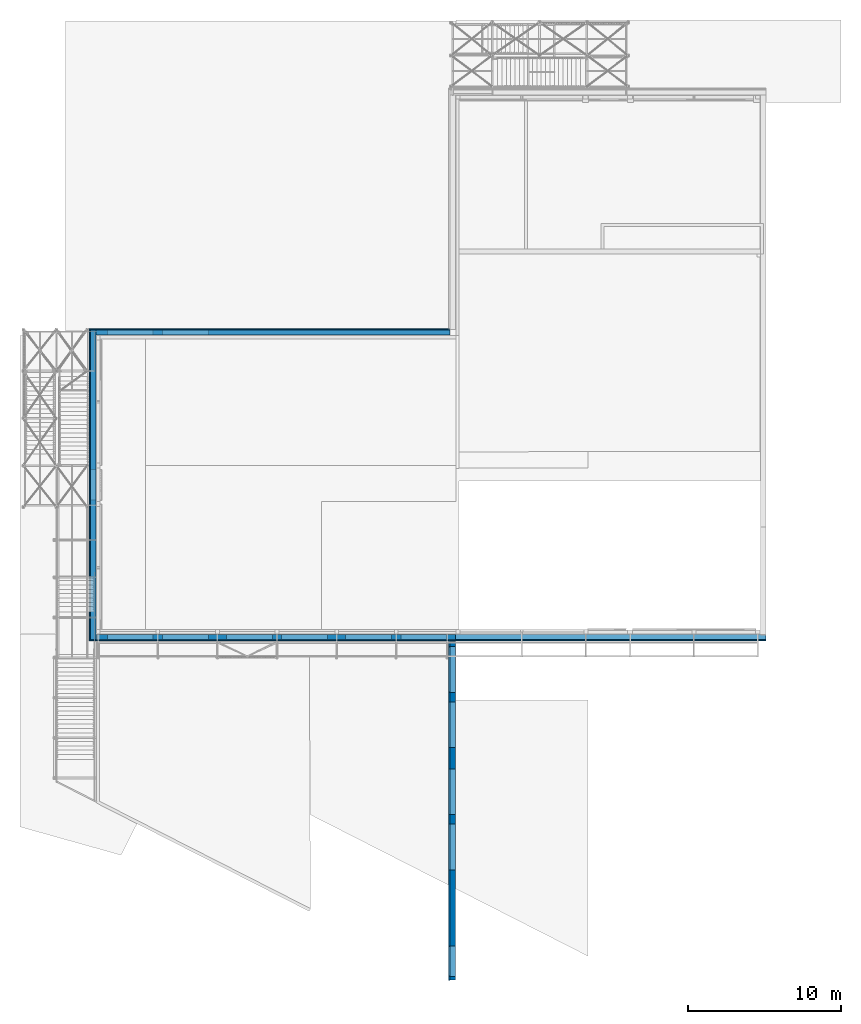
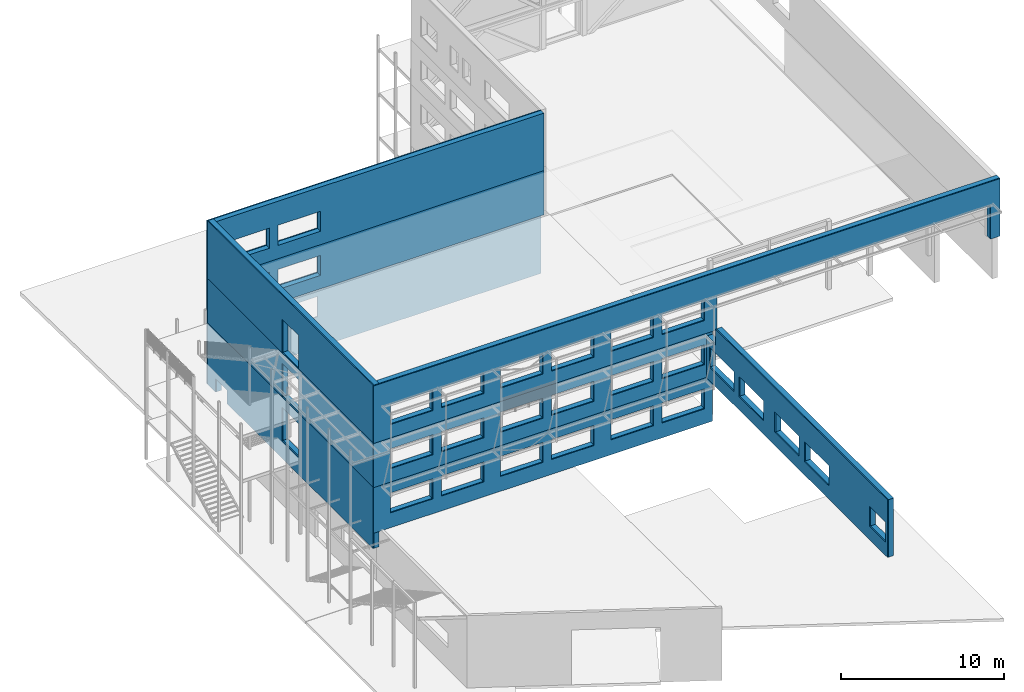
# One storey, part 65 of 78: 19 walls, 19 elements without a shape of their own.
"""IFC2X3 building model written with IfcOpenShell, lengths in millimetres."""

from ifc_helpers import new_model, si_unit, frame, frame_2d, origin_with_axes, place, context, subcontext, project, spatial, polyline, rectangle, outline, extrude, boolean, material, type_object, element, aggregate, save


model = new_model("IFC2X3")

# Units and contexts
model_context = context("Model", 3, precision=1e-05, world=origin_with_axes())
body_context = subcontext(model_context, "Body", "Model", "MODEL_VIEW")
ifc_project = project(units=[si_unit("LENGTHUNIT", "METRE", prefix="MILLI"), si_unit("AREAUNIT", "SQUARE_METRE"), si_unit("VOLUMEUNIT", "CUBIC_METRE"), si_unit("MASSUNIT", "GRAM", prefix="KILO"), si_unit("TIMEUNIT", "SECOND"), si_unit("PLANEANGLEUNIT", "RADIAN"), si_unit("SOLIDANGLEUNIT", "STERADIAN"), si_unit("THERMODYNAMICTEMPERATUREUNIT", "DEGREE_CELSIUS"), si_unit("LUMINOUSINTENSITYUNIT", "LUMEN")], contexts=[model_context])

# Site, building, storey
site_placement = place(None, origin_with_axes())
site = spatial("IfcSite", under=ifc_project, at=site_placement, Name="Site", CompositionType="ELEMENT")
building_placement = place(site_placement, origin_with_axes())
building = spatial("IfcBuilding", under=site, at=building_placement, Name="Undefined", CompositionType="ELEMENT")
storey_placement = place(building_placement, origin_with_axes())
storey = spatial("IfcBuildingStorey", under=building, at=storey_placement, Name="Undefined", CompositionType="ELEMENT", Elevation=0.0)

# Assembly, wall
assembly_1_placement = place(storey_placement, origin_with_axes())
assembly_1 = element("IfcElementAssembly", 1, at=assembly_1_placement, inside=storey, Name="PANNEAU", AssemblyPlace="NOTDEFINED", PredefinedType="RIGID_FRAME")
ifc_material_1 = material(Name="STEEL/S235JR")
wall_type_1 = type_object("IfcWallType", Name="4300*75", PredefinedType="NOTDEFINED")
wall_1_placement = place(assembly_1_placement, frame((-7476.43307529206, 12845.5002906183, 160000.039529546), z_axis=(0.0, 0.0, 1.0), x_axis=(-1.0, 0.0, 0.0)))
wall_1 = element("IfcWall", 2, at=wall_1_placement, type_object=wall_type_1, material=ifc_material_1, Name="PANNEAU", ObjectType="4300*75", context=body_context, shape_type="CSG", body=[
    boolean("DIFFERENCE", boolean("DIFFERENCE", extrude(rectangle(XDim=23594.9999009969, YDim=75.0, at=frame_2d((0.0, 11797.4999504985), x_axis=(0.0, -1.0))), frame((0.0, 0.0, 0.0), z_axis=(0.0, 0.0, 1.0), x_axis=(0.0, -1.0, 0.0)), (0.0, 0.0, 1.0), 4300.0), extrude(outline(polyline([(0.0, 0.0), (1500.0, -3.63797880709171e-12), (1500.0, 3000.0), (-0.00095367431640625, 3000.0), (0.0, 0.0)])), frame((18807.1117567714, 324.999999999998, 1000.000639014), z_axis=(0.0, -1.0, 0.0), x_axis=(0.0, 0.0, 1.0)), (0.0, 0.0, 1.0), 365.0)), extrude(outline(polyline([(0.0, 0.0), (1500.00095367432, 0.0), (1500.00095367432, 3000.00000000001), (0.0, 3000.00000000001), (0.0, 0.0)])), frame((22412.1112990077, 324.999999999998, 999.999624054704), z_axis=(0.0, -1.0, 0.0), x_axis=(0.0, 0.0, 1.0)), (0.0, 0.0, 1.0), 365.0)),
])
aggregate(assembly_1, [wall_1])

assembly_2_placement = place(storey_placement, origin_with_axes())
assembly_2 = element("IfcElementAssembly", 3, at=assembly_2_placement, inside=storey, Name="PANNEAU", AssemblyPlace="NOTDEFINED", PredefinedType="RIGID_FRAME")
wall_2_placement = place(assembly_2_placement, frame((-7513.93366298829, -7488.00116886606, 156700.039343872), z_axis=(0.0, 0.0, 1.0), x_axis=(0.0, -1.0, 0.0)))
wall_2 = element("IfcWall", 4, at=wall_2_placement, type_object=wall_type_1, material=ifc_material_1, Name="PANNEAU", ObjectType="4300*75", context=body_context, shape_type="CSG", body=[
    boolean("DIFFERENCE", boolean("DIFFERENCE", boolean("DIFFERENCE", boolean("DIFFERENCE", boolean("DIFFERENCE", boolean("DIFFERENCE", extrude(rectangle(XDim=22264.4138336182, YDim=75.0, at=frame_2d((0.0, 11132.2069168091), x_axis=(0.0, -1.0))), frame((0.0, 0.0, 0.0), z_axis=(0.0, 0.0, 1.0), x_axis=(0.0, -1.0, 0.0)), (0.0, 0.0, 1.0), 4300.0), extrude(outline(polyline([(0.0, 0.0), (1199.99980927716, 2.58833097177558e-08), (1199.99853912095, 1200.00000002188), (-0.00132173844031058, 1199.99868694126), (0.0, 0.0)])), frame((2.09183781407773e-11, 324.999999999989, 4300.0), z_axis=(0.0, -1.0, 0.0), x_axis=(-1.10100000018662e-06, 0.0, -0.999999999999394)), (0.0, 0.0, 1.0), 365.0)), extrude(outline(polyline([(0.0, 0.0), (1979.99954223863, 2.16823536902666e-08), (1979.99954223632, 1500.0), (0.0, 1500.0), (0.0, 0.0)])), frame((20046.999020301, 325.0, 1000.00009165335), z_axis=(0.0, -1.0, 0.0), x_axis=(1.0, 0.0, 0.0)), (0.0, 0.0, 1.0), 365.0)), extrude(outline(polyline([(0.0, 0.0), (1500.0, -3.63797880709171e-12), (1500.0, 3000.0), (0.0, 3000.00000000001), (0.0, 0.0)])), frame((15059.9995085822, 325.0, 1000.00030609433), z_axis=(0.0, -1.0, 0.0), x_axis=(0.0, 0.0, 1.0)), (0.0, 0.0, 1.0), 365.0)), extrude(outline(polyline([(0.0, 0.0), (3000.0, 0.0), (3000.0, 1500.0), (0.0, 1500.0), (0.0, 0.0)])), frame((8446.99863883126, 325.0, 1000.00059045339), z_axis=(0.0, -1.0, 0.0), x_axis=(1.0, 0.0, 0.0)), (0.0, 0.0, 1.0), 365.0)), extrude(outline(polyline([(0.0, 0.0), (3000.00190734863, 0.0), (3000.00190734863, 1500.0), (0.0, 1500.0), (0.0, 0.0)])), frame((4059.99760123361, 325.0, 1000.00077909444), z_axis=(0.0, -1.0, 0.0), x_axis=(1.0, 0.0, 0.0)), (0.0, 0.0, 1.0), 365.0)), extrude(outline(polyline([(0.0, 0.0), (3000.0, 0.0), (3000.0, 1500.0), (0.0, 1500.0), (0.0, 0.0)])), frame((446.998638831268, 325.0, 1000.00093445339), z_axis=(0.0, -1.0, 0.0), x_axis=(1.0, 0.0, 0.0)), (0.0, 0.0, 1.0), 365.0)),
])
aggregate(assembly_2, [wall_2])

assembly_3_placement = place(storey_placement, origin_with_axes())
assembly_3 = element("IfcElementAssembly", 5, at=assembly_3_placement, inside=storey, Name="PANNEAU", AssemblyPlace="NOTDEFINED", PredefinedType="RIGID_FRAME")
wall_3_placement = place(assembly_3_placement, frame((-31071.4330495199, -7525.4997138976, 160000.039534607), z_axis=(0.0, 0.0, 1.0), x_axis=(1.0, 0.0, 0.0)))
wall_3 = element("IfcWall", 6, at=wall_3_placement, type_object=wall_type_1, material=ifc_material_1, Name="PANNEAU", ObjectType="4300*75", context=body_context, shape_type="CSG", body=[
    boolean("DIFFERENCE", boolean("DIFFERENCE", boolean("DIFFERENCE", boolean("DIFFERENCE", boolean("DIFFERENCE", boolean("DIFFERENCE", boolean("DIFFERENCE", extrude(rectangle(XDim=44291.0004577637, YDim=75.0, at=frame_2d((0.0, 22145.5002288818), x_axis=(0.0, -1.0))), frame((0.0, 0.0, 0.0), z_axis=(0.0, 0.0, 1.0), x_axis=(0.0, -1.0, 0.0)), (0.0, 0.0, 1.0), 4300.0), extrude(outline(polyline([(0.0, 0.0), (19350.0022888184, 0.0), (19350.0008626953, 2500.00095367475), (-1.81898940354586e-12, 2500.00095367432), (0.0, 0.0)])), frame((24267.9995950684, -40.5001018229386, 2500.00095367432), z_axis=(0.0, 1.0, 0.0), x_axis=(1.0, 0.0, 0.0)), (0.0, 0.0, 1.0), 366.0)), extrude(outline(polyline([(0.0, 0.0), (3000.0, 0.0), (3000.0, 1500.00095367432), (0.0, 1500.00095367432), (0.0, 0.0)])), frame((20388.1682809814, 325.0, 1000.0), z_axis=(0.0, -1.0, 0.0), x_axis=(1.0, 0.0, 0.0)), (0.0, 0.0, 1.0), 365.0)), extrude(outline(polyline([(0.0, 0.0), (3000.0, 0.0), (3000.0, 1500.00095367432), (0.0, 1500.00095367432), (0.0, 0.0)])), frame((16783.1687387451, 325.0, 1000.0), z_axis=(0.0, -1.0, 0.0), x_axis=(1.0, 0.0, 0.0)), (0.0, 0.0, 1.0), 365.0)), extrude(outline(polyline([(0.0, 0.0), (3000.0, 0.0), (3000.0, 1500.00095367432), (0.0, 1500.00095367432), (0.0, 0.0)])), frame((12588.1690439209, 325.0, 1000.0), z_axis=(0.0, -1.0, 0.0), x_axis=(1.0, 0.0, 0.0)), (0.0, 0.0, 1.0), 365.0)), extrude(outline(polyline([(0.0, 0.0), (3000.0, 0.0), (3000.0, 1500.00095367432), (-0.000953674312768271, 1500.00095367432), (0.0, 0.0)])), frame((8983.16950168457, 325.0, 1000.0), z_axis=(0.0, -1.0, 0.0), x_axis=(1.0, 0.0, 0.0)), (0.0, 0.0, 1.0), 365.0)), extrude(outline(polyline([(0.0, 0.0), (3000.0, 0.0), (3000.00047685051, 1499.99999997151), (0.000476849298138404, 1500.00095367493), (0.0, 0.0)])), frame((4788.16848754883, 325.0, 1000.0), z_axis=(0.0, -1.0, 0.0), x_axis=(1.0, 0.0, 0.0)), (0.0, 0.0, 1.0), 365.0)), extrude(outline(polyline([(0.0, 0.0), (3000.0, 0.0), (3000.0, 1500.00095367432), (0.0, 1500.00095367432), (0.0, 0.0)])), frame((1183.1689453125, 325.0, 1000.0), z_axis=(0.0, -1.0, 0.0), x_axis=(1.0, 0.0, 0.0)), (0.0, 0.0, 1.0), 365.0)),
])
aggregate(assembly_3, [wall_3])

assembly_4_placement = place(storey_placement, origin_with_axes())
assembly_4 = element("IfcElementAssembly", 7, at=assembly_4_placement, inside=storey, Name="PANNEAU", AssemblyPlace="NOTDEFINED", PredefinedType="RIGID_FRAME")
wall_4_placement = place(assembly_4_placement, frame((-31033.9335327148, 12808.0002897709, 160000.039453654), z_axis=(0.0, 0.0, 1.0), x_axis=(0.0, -1.0, 0.0)))
wall_4 = element("IfcWall", 8, at=wall_4_placement, type_object=wall_type_1, material=ifc_material_1, Name="PANNEAU", ObjectType="4300*75", context=body_context, shape_type="CSG", body=[
    boolean("DIFFERENCE", extrude(rectangle(XDim=20296.0000038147, YDim=75.0, at=frame_2d((0.0, 10148.0000019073), x_axis=(0.0, -1.0))), frame((0.0, 0.0, 0.0), z_axis=(0.0, 0.0, 1.0), x_axis=(0.0, -1.0, 0.0)), (0.0, 0.0, 1.0), 4300.0), extrude(outline(polyline([(0.0, 0.0), (1998.2500076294, 0.0), (1998.2500076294, 2500.00095367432), (-1.81898940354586e-12, 2500.00095367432), (0.0, 0.0)])), frame((9148.87523651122, 325.0, 0.0), z_axis=(0.0, -1.0, 0.0), x_axis=(1.0, 0.0, 0.0)), (0.0, 0.0, 1.0), 365.0)),
])
aggregate(assembly_4, [wall_4])

assembly_5_placement = place(storey_placement, origin_with_axes())
assembly_5 = element("IfcElementAssembly", 9, at=assembly_5_placement, inside=storey, Name="PANNEAU", AssemblyPlace="NOTDEFINED", PredefinedType="RIGID_FRAME")
wall_type_2 = type_object("IfcWallType", Name="3300*75", PredefinedType="NOTDEFINED")
wall_5_placement = place(assembly_5_placement, frame((-7476.43307523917, 12845.500289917, 156700.040297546), z_axis=(0.0, 0.0, 1.0), x_axis=(-1.0, 0.0, 0.0)))
wall_5 = element("IfcWall", 10, at=wall_5_placement, type_object=wall_type_2, material=ifc_material_1, Name="PANNEAU", ObjectType="3300*75", context=body_context, shape_type="CSG", body=[
    boolean("DIFFERENCE", boolean("DIFFERENCE", extrude(rectangle(XDim=23594.9998474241, YDim=75.0, at=frame_2d((0.0, 11797.4999504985), x_axis=(0.0, -1.0))), frame((0.0, 0.0, 0.0), z_axis=(0.0, 0.0, 1.0), x_axis=(0.0, -1.0, 0.0)), (0.0, 0.0, 1.0), 3300.0), extrude(outline(polyline([(0.0, 0.0), (1500.0, -3.63797880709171e-12), (1500.0, 3000.0), (0.0, 3000.00000000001), (0.0, 0.0)])), frame((18807.1117238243, 324.999999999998, 1000.00030091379), z_axis=(0.0, -1.0, 0.0), x_axis=(0.0, 0.0, 1.0)), (0.0, 0.0, 1.0), 365.0)), extrude(outline(polyline([(0.0, 0.0), (1500.0, -3.63797880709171e-12), (1500.0, 3000.0), (0.0, 3000.00000000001), (0.0, 0.0)])), frame((22412.1112660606, 324.999999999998, 1000.0003585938), z_axis=(0.0, -1.0, 0.0), x_axis=(0.0, 0.0, 1.0)), (0.0, 0.0, 1.0), 365.0)),
])
aggregate(assembly_5, [wall_5])

assembly_6_placement = place(storey_placement, origin_with_axes())
assembly_6 = element("IfcElementAssembly", 11, at=assembly_6_placement, inside=storey, Name="PANNEAU", AssemblyPlace="NOTDEFINED", PredefinedType="RIGID_FRAME")
wall_6_placement = place(assembly_6_placement, frame((-31071.4336598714, -7525.4997138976, 156700.040297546), z_axis=(0.0, 0.0, 1.0), x_axis=(1.0, 0.0, 0.0)))
wall_6 = element("IfcWall", 12, at=wall_6_placement, type_object=wall_type_2, material=ifc_material_1, Name="PANNEAU", ObjectType="3300*75", context=body_context, shape_type="CSG", body=[
    boolean("DIFFERENCE", boolean("DIFFERENCE", boolean("DIFFERENCE", boolean("DIFFERENCE", boolean("DIFFERENCE", boolean("DIFFERENCE", extrude(rectangle(XDim=23955.0004577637, YDim=75.0, at=frame_2d((0.0, 11977.5002288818), x_axis=(0.0, -1.0))), frame((0.0, 0.0, 0.0), z_axis=(0.0, 0.0, 1.0), x_axis=(0.0, -1.0, 0.0)), (0.0, 0.0, 1.0), 3300.0), extrude(outline(polyline([(0.0, 0.0), (3000.0, 0.0), (3000.0, 1500.0), (0.0, 1500.0), (0.0, 0.0)])), frame((20388.168891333, 325.0, 1000.0), z_axis=(0.0, -1.0, 0.0), x_axis=(1.0, 0.0, 0.0)), (0.0, 0.0, 1.0), 365.0)), extrude(outline(polyline([(0.0, 0.0), (3000.0, 0.0), (3000.0, 1500.0), (0.0, 1500.0), (0.0, 0.0)])), frame((16783.1693490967, 325.0, 1000.0), z_axis=(0.0, -1.0, 0.0), x_axis=(1.0, 0.0, 0.0)), (0.0, 0.0, 1.0), 365.0)), extrude(outline(polyline([(0.0, 0.0), (3000.0, 0.0), (3000.0, 1500.0), (0.0, 1500.0), (0.0, 0.0)])), frame((12588.1696542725, 325.0, 1000.0), z_axis=(0.0, -1.0, 0.0), x_axis=(1.0, 0.0, 0.0)), (0.0, 0.0, 1.0), 365.0)), extrude(outline(polyline([(0.0, 0.0), (3000.0, 0.0), (3000.0, 1500.0), (0.0, 1500.0), (0.0, 0.0)])), frame((8983.17011203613, 325.0, 1000.0), z_axis=(0.0, -1.0, 0.0), x_axis=(1.0, 0.0, 0.0)), (0.0, 0.0, 1.0), 365.0)), extrude(outline(polyline([(0.0, 0.0), (3000.0, 0.0), (3000.0, 1500.0), (0.0, 1500.0), (0.0, 0.0)])), frame((4788.16909790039, 325.0, 1000.0), z_axis=(0.0, -1.0, 0.0), x_axis=(1.0, 0.0, 0.0)), (0.0, 0.0, 1.0), 365.0)), extrude(outline(polyline([(0.0, 0.0), (3000.0, 0.0), (3000.0, 1500.0), (0.0, 1500.0), (0.0, 0.0)])), frame((1183.16955566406, 325.0, 1000.0), z_axis=(0.0, -1.0, 0.0), x_axis=(1.0, 0.0, 0.0)), (0.0, 0.0, 1.0), 365.0)),
])
aggregate(assembly_6, [wall_6])

assembly_7_placement = place(storey_placement, origin_with_axes())
assembly_7 = element("IfcElementAssembly", 13, at=assembly_7_placement, inside=storey, Name="PANNEAU", AssemblyPlace="NOTDEFINED", PredefinedType="RIGID_FRAME")
wall_7_placement = place(assembly_7_placement, frame((-31033.9335327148, 12807.9993360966, 156700.040216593), z_axis=(0.0, 0.0, 1.0), x_axis=(0.0, -1.0, 0.0)))
wall_7 = element("IfcWall", 14, at=wall_7_placement, type_object=wall_type_2, material=ifc_material_1, Name="PANNEAU", ObjectType="3300*75", context=body_context, shape_type="CSG", body=[
    boolean("DIFFERENCE", extrude(rectangle(XDim=20295.9990501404, YDim=75.0, at=frame_2d((0.0, 10147.9995250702), x_axis=(0.0, -1.0))), frame((0.0, 0.0, 0.0), z_axis=(0.0, 0.0, 1.0), x_axis=(0.0, -1.0, 0.0)), (0.0, 0.0, 1.0), 3300.0), extrude(outline(polyline([(0.0, 0.0), (1998.2500076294, 0.0), (1998.2500076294, 2500.0), (1.81898940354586e-12, 2500.0), (0.0, 0.0)])), frame((9148.87428283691, 325.0, 0.0), z_axis=(0.0, -1.0, 0.0), x_axis=(1.0, 0.0, 0.0)), (0.0, 0.0, 1.0), 365.0)),
])
aggregate(assembly_7, [wall_7])

assembly_8_placement = place(storey_placement, origin_with_axes())
assembly_8 = element("IfcElementAssembly", 15, at=assembly_8_placement, inside=storey, Name="PANNEAU", AssemblyPlace="NOTDEFINED", PredefinedType="RIGID_FRAME")
wall_type_3 = type_object("IfcWallType", Name="4600*75", PredefinedType="NOTDEFINED")
wall_8_placement = place(assembly_8_placement, frame((-7476.43307495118, 12845.500289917, 152100.039916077), z_axis=(0.0, 0.0, 1.0), x_axis=(-1.0, 0.0, 0.0)))
wall_8 = element("IfcWall", 16, at=wall_8_placement, type_object=wall_type_3, material=ifc_material_1, Name="PANNEAU", ObjectType="4600*75", context=body_context, shape_type="CSG", body=[
    boolean("DIFFERENCE", boolean("DIFFERENCE", extrude(rectangle(XDim=23594.9998474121, YDim=75.0, at=frame_2d((0.0, 11797.4999504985), x_axis=(0.0, -1.0))), frame((0.0, 0.0, 0.0), z_axis=(0.0, 0.0, 1.0), x_axis=(0.0, -1.0, 0.0)), (0.0, 0.0, 1.0), 4600.0), extrude(outline(polyline([(0.0, 0.0), (1500.0, -3.63797880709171e-12), (1500.0, 3000.0), (0.0, 3000.00000000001), (0.0, 0.0)])), frame((18807.1117401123, 325.0, 2300.00019073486), z_axis=(0.0, -1.0, 0.0), x_axis=(0.0, 0.0, 1.0)), (0.0, 0.0, 1.0), 365.0)), extrude(outline(polyline([(0.0, 0.0), (1500.0, -3.63797880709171e-12), (1500.0, 3000.0), (0.0, 3000.00000000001), (0.0, 0.0)])), frame((22412.1112823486, 325.0, 2300.00019073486), z_axis=(0.0, -1.0, 0.0), x_axis=(0.0, 0.0, 1.0)), (0.0, 0.0, 1.0), 365.0)),
])
aggregate(assembly_8, [wall_8])

assembly_9_placement = place(storey_placement, origin_with_axes())
assembly_9 = element("IfcElementAssembly", 17, at=assembly_9_placement, inside=storey, Name="PANNEAU", AssemblyPlace="NOTDEFINED", PredefinedType="RIGID_FRAME")
wall_9_placement = place(assembly_9_placement, frame((-31033.9335327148, 12807.9993360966, 152100.039835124), z_axis=(0.0, 0.0, 1.0), x_axis=(0.0, -1.0, 0.0)))
wall_9 = element("IfcWall", 18, at=wall_9_placement, type_object=wall_type_3, material=ifc_material_1, Name="PANNEAU", ObjectType="4600*75", context=body_context, shape_type="CSG", body=[
    boolean("DIFFERENCE", boolean("DIFFERENCE", extrude(rectangle(XDim=20295.9990501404, YDim=75.0, at=frame_2d((0.0, 10147.9995250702), x_axis=(0.0, -1.0))), frame((0.0, 0.0, 0.0), z_axis=(0.0, 0.0, 1.0), x_axis=(0.0, -1.0, 0.0)), (0.0, 0.0, 1.0), 4600.0), extrude(outline(polyline([(0.0, 0.0), (1000.0, -1.81898940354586e-12), (1000.0, 1399.99961853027), (0.0, 1399.99961853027), (0.0, 0.0)])), frame((1015.34652709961, -40.0, 0.0), z_axis=(0.0, 1.0, 0.0), x_axis=(0.0, 0.0, 1.0)), (0.0, 0.0, 1.0), 365.0)), extrude(outline(polyline([(0.0, 0.0), (1998.24953079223, 0.0), (1998.24953079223, 2500.0), (1.81898940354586e-12, 2500.0), (0.0, 0.0)])), frame((9148.87475967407, 325.0, 1300.00019073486), z_axis=(0.0, -1.0, 0.0), x_axis=(1.0, 0.0, 0.0)), (0.0, 0.0, 1.0), 365.0)),
])
aggregate(assembly_9, [wall_9])

assembly_10_placement = place(storey_placement, origin_with_axes())
assembly_10 = element("IfcElementAssembly", 19, at=assembly_10_placement, inside=storey, Name="PANNEAU", AssemblyPlace="NOTDEFINED", PredefinedType="RIGID_FRAME")
wall_type_4 = type_object("IfcWallType", Name="3409*75", PredefinedType="NOTDEFINED")
wall_10_placement = place(assembly_10_placement, frame((-31071.4330495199, -7525.50019073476, 153291.053729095), z_axis=(0.0, 0.0, 1.0), x_axis=(1.0, 0.0, 0.0)))
wall_10 = element("IfcWall", 20, at=wall_10_placement, type_object=wall_type_4, material=ifc_material_1, Name="PANNEAU", ObjectType="3409*75", context=body_context, shape_type="CSG", body=[
    boolean("DIFFERENCE", boolean("DIFFERENCE", boolean("DIFFERENCE", boolean("DIFFERENCE", boolean("DIFFERENCE", boolean("DIFFERENCE", extrude(rectangle(XDim=23955.0004577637, YDim=75.0, at=frame_2d((0.0, 11977.5002288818), x_axis=(0.0, -1.0))), frame((0.0, 0.0, 0.0), z_axis=(0.0, 0.0, 1.0), x_axis=(0.0, -1.0, 0.0)), (0.0, 0.0, 1.0), 3409.0), extrude(outline(polyline([(0.0, 0.0), (3000.0, 0.0), (3000.0, 1500.0), (0.0, 1500.0), (0.0, 0.0)])), frame((20388.1682809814, 325.0, 1108.98637771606), z_axis=(0.0, -1.0, 0.0), x_axis=(1.0, 0.0, 0.0)), (0.0, 0.0, 1.0), 365.0)), extrude(outline(polyline([(0.0, 0.0), (3000.0, 0.0), (3000.0, 1500.0), (0.0, 1500.0), (0.0, 0.0)])), frame((16783.1687387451, 325.0, 1108.98637771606), z_axis=(0.0, -1.0, 0.0), x_axis=(1.0, 0.0, 0.0)), (0.0, 0.0, 1.0), 365.0)), extrude(outline(polyline([(0.0, 0.0), (3000.0, 0.0), (3000.0, 1500.0), (0.0, 1500.0), (0.0, 0.0)])), frame((12588.1690439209, 325.0, 1108.98637771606), z_axis=(0.0, -1.0, 0.0), x_axis=(1.0, 0.0, 0.0)), (0.0, 0.0, 1.0), 365.0)), extrude(outline(polyline([(0.0, 0.0), (3000.0, 0.0), (3000.0, 1500.0), (0.0, 1500.0), (0.0, 0.0)])), frame((8983.16950168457, 325.0, 1108.98637771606), z_axis=(0.0, -1.0, 0.0), x_axis=(1.0, 0.0, 0.0)), (0.0, 0.0, 1.0), 365.0)), extrude(outline(polyline([(0.0, 0.0), (3000.0, 0.0), (3000.0, 1500.0), (0.0, 1500.0), (0.0, 0.0)])), frame((4788.16848754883, 325.0, 1108.98637771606), z_axis=(0.0, -1.0, 0.0), x_axis=(1.0, 0.0, 0.0)), (0.0, 0.0, 1.0), 365.0)), extrude(outline(polyline([(0.0, 0.0), (3000.0, 0.0), (3000.0, 1500.0), (0.0, 1500.0), (0.0, 0.0)])), frame((1183.1689453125, 325.0, 1108.98637771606), z_axis=(0.0, -1.0, 0.0), x_axis=(1.0, 0.0, 0.0)), (0.0, 0.0, 1.0), 365.0)),
])
aggregate(assembly_10, [wall_10])

assembly_11_placement = place(storey_placement, origin_with_axes())
assembly_11 = element("IfcElementAssembly", 21, at=assembly_11_placement, inside=storey, Name="PANNEAU", AssemblyPlace="NOTDEFINED", PredefinedType="NOTDEFINED")
ifc_material_2 = material(Name="MISCELLANEOUS/ISOLANT")
wall_type_5 = type_object("IfcWallType", Name="4300*360", PredefinedType="NOTDEFINED")
wall_11_placement = place(assembly_11_placement, frame((-7296.43366298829, -7488.00116886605, 156700.039343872), z_axis=(0.0, 0.0, 1.0), x_axis=(0.0, -1.0, 0.0)))
wall_11 = element("IfcWall", 22, at=wall_11_placement, type_object=wall_type_5, material=ifc_material_2, Name="PANNEAU", ObjectType="4300*360", context=body_context, shape_type="CSG", body=[
    boolean("DIFFERENCE", boolean("DIFFERENCE", boolean("DIFFERENCE", boolean("DIFFERENCE", boolean("DIFFERENCE", boolean("DIFFERENCE", extrude(rectangle(XDim=22264.4138336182, YDim=360.0, at=frame_2d((0.0, 11132.2069168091), x_axis=(0.0, -1.0))), frame((0.0, 0.0, 0.0), z_axis=(0.0, 0.0, 1.0), x_axis=(0.0, -1.0, 0.0)), (0.0, 0.0, 1.0), 4300.0), extrude(outline(polyline([(0.0, 0.0), (1199.99980927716, 2.58833097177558e-08), (1199.99853912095, 1200.00000002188), (-0.00132173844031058, 1199.99868694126), (0.0, 0.0)])), frame((2.00088834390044e-11, 182.499999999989, 4300.0), z_axis=(0.0, -1.0, 0.0), x_axis=(-1.10100000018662e-06, 0.0, -0.999999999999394)), (0.0, 0.0, 1.0), 365.0)), extrude(outline(polyline([(0.0, 0.0), (1979.99954223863, 2.16823536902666e-08), (1979.99954223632, 1500.0), (0.0, 1500.0), (0.0, 0.0)])), frame((20046.999020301, 182.5, 1000.00009165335), z_axis=(0.0, -1.0, 0.0), x_axis=(1.0, 0.0, 0.0)), (0.0, 0.0, 1.0), 365.0)), extrude(outline(polyline([(0.0, 0.0), (1500.0, -3.63797880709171e-12), (1500.0, 3000.0), (0.0, 3000.00000000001), (0.0, 0.0)])), frame((15059.9995085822, 182.5, 1000.00030609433), z_axis=(0.0, -1.0, 0.0), x_axis=(0.0, 0.0, 1.0)), (0.0, 0.0, 1.0), 365.0)), extrude(outline(polyline([(0.0, 0.0), (3000.0, 0.0), (3000.0, 1500.0), (0.0, 1500.0), (0.0, 0.0)])), frame((8446.99863883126, 182.5, 1000.00059045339), z_axis=(0.0, -1.0, 0.0), x_axis=(1.0, 0.0, 0.0)), (0.0, 0.0, 1.0), 365.0)), extrude(outline(polyline([(0.0, 0.0), (3000.00190734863, 0.0), (3000.00190734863, 1500.0), (0.0, 1500.0), (0.0, 0.0)])), frame((4059.99760123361, 182.5, 1000.00077909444), z_axis=(0.0, -1.0, 0.0), x_axis=(1.0, 0.0, 0.0)), (0.0, 0.0, 1.0), 365.0)), extrude(outline(polyline([(0.0, 0.0), (3000.0, 0.0), (3000.0, 1500.0), (0.0, 1500.0), (0.0, 0.0)])), frame((446.998638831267, 182.5, 1000.00093445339), z_axis=(0.0, -1.0, 0.0), x_axis=(1.0, 0.0, 0.0)), (0.0, 0.0, 1.0), 365.0)),
])
aggregate(assembly_11, [wall_11])

assembly_12_placement = place(storey_placement, origin_with_axes())
assembly_12 = element("IfcElementAssembly", 23, at=assembly_12_placement, inside=storey, Name="PANNEAU", AssemblyPlace="NOTDEFINED", PredefinedType="NOTDEFINED")
wall_12_placement = place(assembly_12_placement, frame((-30636.4329223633, -7307.99971389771, 160000.039534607), z_axis=(0.0, 0.0, 1.0), x_axis=(1.0, 0.0, 0.0)))
wall_12 = element("IfcWall", 24, at=wall_12_placement, type_object=wall_type_5, material=ifc_material_2, Name="PANNEAU", ObjectType="4300*360", context=body_context, shape_type="CSG", body=[
    boolean("DIFFERENCE", boolean("DIFFERENCE", boolean("DIFFERENCE", boolean("DIFFERENCE", boolean("DIFFERENCE", boolean("DIFFERENCE", boolean("DIFFERENCE", extrude(rectangle(XDim=43856.0004577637, YDim=360.0, at=frame_2d((0.0, 21928.0002288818), x_axis=(0.0, -1.0))), frame((0.0, 0.0, 0.0), z_axis=(0.0, 0.0, 1.0), x_axis=(0.0, -1.0, 0.0)), (0.0, 0.0, 1.0), 4300.0), extrude(outline(polyline([(0.0, 0.0), (19350.0022888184, 0.0), (19350.0008626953, 2500.00095367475), (-1.81898940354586e-12, 2500.00095367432), (0.0, 0.0)])), frame((23832.9995950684, -183.000101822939, 2500.00095367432), z_axis=(0.0, 1.0, 0.0), x_axis=(1.0, 0.0, 0.0)), (0.0, 0.0, 1.0), 366.0)), extrude(outline(polyline([(0.0, 0.0), (3000.0, 0.0), (3000.0, 1500.00095367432), (0.0, 1500.00095367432), (0.0, 0.0)])), frame((19953.1682809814, 182.5, 1000.0), z_axis=(0.0, -1.0, 0.0), x_axis=(1.0, 0.0, 0.0)), (0.0, 0.0, 1.0), 365.0)), extrude(outline(polyline([(0.0, 0.0), (3000.0, 0.0), (3000.0, 1500.00095367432), (0.0, 1500.00095367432), (0.0, 0.0)])), frame((16348.1687387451, 182.5, 1000.0), z_axis=(0.0, -1.0, 0.0), x_axis=(1.0, 0.0, 0.0)), (0.0, 0.0, 1.0), 365.0)), extrude(outline(polyline([(0.0, 0.0), (3000.0, 0.0), (3000.0, 1500.00095367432), (0.0, 1500.00095367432), (0.0, 0.0)])), frame((12153.1690439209, 182.5, 1000.0), z_axis=(0.0, -1.0, 0.0), x_axis=(1.0, 0.0, 0.0)), (0.0, 0.0, 1.0), 365.0)), extrude(outline(polyline([(0.0, 0.0), (3000.0, 0.0), (3000.0, 1500.00095367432), (-0.000953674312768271, 1500.00095367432), (0.0, 0.0)])), frame((8548.16950168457, 182.5, 1000.0), z_axis=(0.0, -1.0, 0.0), x_axis=(1.0, 0.0, 0.0)), (0.0, 0.0, 1.0), 365.0)), extrude(outline(polyline([(0.0, 0.0), (3000.0, 0.0), (3000.00047685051, 1499.99999997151), (0.000476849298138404, 1500.00095367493), (0.0, 0.0)])), frame((4353.16848754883, 182.5, 1000.0), z_axis=(0.0, -1.0, 0.0), x_axis=(1.0, 0.0, 0.0)), (0.0, 0.0, 1.0), 365.0)), extrude(outline(polyline([(0.0, 0.0), (3000.0, 0.0), (3000.0, 1500.00095367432), (0.0, 1500.00095367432), (0.0, 0.0)])), frame((748.168945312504, 182.5, 1000.0), z_axis=(0.0, -1.0, 0.0), x_axis=(1.0, 0.0, 0.0)), (0.0, 0.0, 1.0), 365.0)),
])
aggregate(assembly_12, [wall_12])

assembly_13_placement = place(storey_placement, origin_with_axes())
assembly_13 = element("IfcElementAssembly", 25, at=assembly_13_placement, inside=storey, Name="PANNEAU", AssemblyPlace="NOTDEFINED", PredefinedType="NOTDEFINED")
wall_13_placement = place(assembly_13_placement, frame((-30816.4335327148, 12808.000289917, 160000.039534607), z_axis=(0.0, 0.0, 1.0), x_axis=(0.0, -1.0, 0.0)))
wall_13 = element("IfcWall", 26, at=wall_13_placement, type_object=wall_type_5, material=ifc_material_2, Name="PANNEAU", ObjectType="4300*360", context=body_context, shape_type="CSG", body=[
    boolean("DIFFERENCE", extrude(rectangle(XDim=20296.0000038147, YDim=360.0, at=frame_2d((0.0, 10148.0000019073), x_axis=(0.0, -1.0))), frame((0.0, 0.0, 0.0), z_axis=(0.0, 0.0, 1.0), x_axis=(0.0, -1.0, 0.0)), (0.0, 0.0, 1.0), 4300.0), extrude(outline(polyline([(0.0, 0.0), (1998.2500076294, 0.0), (1998.2500076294, 2500.00095367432), (-1.81898940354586e-12, 2500.00095367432), (0.0, 0.0)])), frame((9148.87523651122, 182.5, 0.0), z_axis=(0.0, -1.0, 0.0), x_axis=(1.0, 0.0, 0.0)), (0.0, 0.0, 1.0), 365.0)),
])
aggregate(assembly_13, [wall_13])

assembly_14_placement = place(storey_placement, origin_with_axes())
assembly_14 = element("IfcElementAssembly", 27, at=assembly_14_placement, inside=storey, Name="PANNEAU", AssemblyPlace="NOTDEFINED", PredefinedType="NOTDEFINED")
wall_14_placement = place(assembly_14_placement, frame((-7476.4330745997, 12628.0002906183, 160000.039529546), z_axis=(0.0, 0.0, 1.0), x_axis=(-1.0, 0.0, 0.0)))
wall_14 = element("IfcWall", 28, at=wall_14_placement, type_object=wall_type_5, material=ifc_material_2, Name="PANNEAU", ObjectType="4300*360", context=body_context, shape_type="CSG", body=[
    boolean("DIFFERENCE", boolean("DIFFERENCE", extrude(rectangle(XDim=23159.9999009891, YDim=360.0, at=frame_2d((0.0, 11579.9999504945), x_axis=(0.0, -1.0))), frame((0.0, 0.0, 0.0), z_axis=(0.0, 0.0, 1.0), x_axis=(0.0, -1.0, 0.0)), (0.0, 0.0, 1.0), 4300.0), extrude(outline(polyline([(0.0, 0.0), (1500.0, -3.63797880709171e-12), (1500.0, 3000.0), (-0.00095367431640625, 3000.0), (0.0, 0.0)])), frame((18807.1117574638, 182.5, 1000.000639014), z_axis=(0.0, -1.0, 0.0), x_axis=(0.0, 0.0, 1.0)), (0.0, 0.0, 1.0), 365.0)), extrude(outline(polyline([(0.0, 0.0), (1500.00095367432, 0.0), (1500.00095367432, 3000.00000000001), (0.0, 3000.00000000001), (0.0, 0.0)])), frame((22412.1112997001, 182.5, 999.999624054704), z_axis=(0.0, -1.0, 0.0), x_axis=(0.0, 0.0, 1.0)), (0.0, 0.0, 1.0), 365.0)),
])
aggregate(assembly_14, [wall_14])

assembly_15_placement = place(storey_placement, origin_with_axes())
assembly_15 = element("IfcElementAssembly", 29, at=assembly_15_placement, inside=storey, Name="PANNEAU", AssemblyPlace="NOTDEFINED", PredefinedType="NOTDEFINED")
wall_type_6 = type_object("IfcWallType", Name="3300*360", PredefinedType="NOTDEFINED")
wall_15_placement = place(assembly_15_placement, frame((-30636.4335327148, -7307.99971389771, 156700.040297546), z_axis=(0.0, 0.0, 1.0), x_axis=(1.0, 0.0, 0.0)))
wall_15 = element("IfcWall", 30, at=wall_15_placement, type_object=wall_type_6, material=ifc_material_2, Name="PANNEAU", ObjectType="3300*360", context=body_context, shape_type="CSG", body=[
    boolean("DIFFERENCE", boolean("DIFFERENCE", boolean("DIFFERENCE", boolean("DIFFERENCE", boolean("DIFFERENCE", boolean("DIFFERENCE", extrude(rectangle(XDim=23520.0004577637, YDim=360.0, at=frame_2d((0.0, 11760.0002288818), x_axis=(0.0, -1.0))), frame((0.0, 0.0, 0.0), z_axis=(0.0, 0.0, 1.0), x_axis=(0.0, -1.0, 0.0)), (0.0, 0.0, 1.0), 3300.0), extrude(outline(polyline([(0.0, 0.0), (3000.0, 0.0), (3000.0, 1500.0), (0.0, 1500.0), (0.0, 0.0)])), frame((19953.168891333, 182.5, 1000.0), z_axis=(0.0, -1.0, 0.0), x_axis=(1.0, 0.0, 0.0)), (0.0, 0.0, 1.0), 365.0)), extrude(outline(polyline([(0.0, 0.0), (3000.0, 0.0), (3000.0, 1500.0), (0.0, 1500.0), (0.0, 0.0)])), frame((16348.1693490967, 182.5, 1000.0), z_axis=(0.0, -1.0, 0.0), x_axis=(1.0, 0.0, 0.0)), (0.0, 0.0, 1.0), 365.0)), extrude(outline(polyline([(0.0, 0.0), (3000.0, 0.0), (3000.0, 1500.0), (0.0, 1500.0), (0.0, 0.0)])), frame((12153.1696542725, 182.5, 1000.0), z_axis=(0.0, -1.0, 0.0), x_axis=(1.0, 0.0, 0.0)), (0.0, 0.0, 1.0), 365.0)), extrude(outline(polyline([(0.0, 0.0), (3000.0, 0.0), (3000.0, 1500.0), (0.0, 1500.0), (0.0, 0.0)])), frame((8548.17011203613, 182.5, 1000.0), z_axis=(0.0, -1.0, 0.0), x_axis=(1.0, 0.0, 0.0)), (0.0, 0.0, 1.0), 365.0)), extrude(outline(polyline([(0.0, 0.0), (3000.0, 0.0), (3000.0, 1500.0), (0.0, 1500.0), (0.0, 0.0)])), frame((4353.16909790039, 182.5, 1000.0), z_axis=(0.0, -1.0, 0.0), x_axis=(1.0, 0.0, 0.0)), (0.0, 0.0, 1.0), 365.0)), extrude(outline(polyline([(0.0, 0.0), (3000.0, 0.0), (3000.0, 1500.0), (0.0, 1500.0), (0.0, 0.0)])), frame((748.169555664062, 182.5, 1000.0), z_axis=(0.0, -1.0, 0.0), x_axis=(1.0, 0.0, 0.0)), (0.0, 0.0, 1.0), 365.0)),
])
aggregate(assembly_15, [wall_15])

assembly_16_placement = place(storey_placement, origin_with_axes())
assembly_16 = element("IfcElementAssembly", 31, at=assembly_16_placement, inside=storey, Name="PANNEAU", AssemblyPlace="NOTDEFINED", PredefinedType="NOTDEFINED")
wall_16_placement = place(assembly_16_placement, frame((-30816.4335327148, 12807.9993362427, 156700.040297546), z_axis=(0.0, 0.0, 1.0), x_axis=(0.0, -1.0, 0.0)))
wall_16 = element("IfcWall", 32, at=wall_16_placement, type_object=wall_type_6, material=ifc_material_2, Name="PANNEAU", ObjectType="3300*360", context=body_context, shape_type="CSG", body=[
    boolean("DIFFERENCE", extrude(rectangle(XDim=20295.9990501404, YDim=360.0, at=frame_2d((0.0, 10147.9995250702), x_axis=(0.0, -1.0))), frame((0.0, 0.0, 0.0), z_axis=(0.0, 0.0, 1.0), x_axis=(0.0, -1.0, 0.0)), (0.0, 0.0, 1.0), 3300.0), extrude(outline(polyline([(0.0, 0.0), (1998.2500076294, 0.0), (1998.2500076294, 2500.0), (1.81898940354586e-12, 2500.0), (0.0, 0.0)])), frame((9148.87428283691, 182.5, 0.0), z_axis=(0.0, -1.0, 0.0), x_axis=(1.0, 0.0, 0.0)), (0.0, 0.0, 1.0), 365.0)),
])
aggregate(assembly_16, [wall_16])

assembly_17_placement = place(storey_placement, origin_with_axes())
assembly_17 = element("IfcElementAssembly", 33, at=assembly_17_placement, inside=storey, Name="PANNEAU", AssemblyPlace="NOTDEFINED", PredefinedType="NOTDEFINED")
wall_17_placement = place(assembly_17_placement, frame((-7476.43307572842, 12628.000289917, 156700.040297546), z_axis=(0.0, 0.0, 1.0), x_axis=(-1.0, 0.0, 0.0)))
wall_17 = element("IfcWall", 34, at=wall_17_placement, type_object=wall_type_6, material=ifc_material_2, Name="PANNEAU", ObjectType="3300*360", context=body_context, shape_type="CSG", body=[
    boolean("DIFFERENCE", boolean("DIFFERENCE", extrude(rectangle(XDim=23159.9998474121, YDim=360.0, at=frame_2d((0.0, 11579.9999504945), x_axis=(0.0, -1.0))), frame((0.0, 0.0, 0.0), z_axis=(0.0, 0.0, 1.0), x_axis=(0.0, -1.0, 0.0)), (0.0, 0.0, 1.0), 3300.0), extrude(outline(polyline([(0.0, 0.0), (1500.0, -3.63797880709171e-12), (1500.0, 3000.0), (0.0, 3000.00000000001), (0.0, 0.0)])), frame((18807.1117233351, 182.5, 1000.00030091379), z_axis=(0.0, -1.0, 0.0), x_axis=(0.0, 0.0, 1.0)), (0.0, 0.0, 1.0), 365.0)), extrude(outline(polyline([(0.0, 0.0), (1500.0, -3.63797880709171e-12), (1500.0, 3000.0), (0.0, 3000.00000000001), (0.0, 0.0)])), frame((22412.1112655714, 182.5, 1000.0003585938), z_axis=(0.0, -1.0, 0.0), x_axis=(0.0, 0.0, 1.0)), (0.0, 0.0, 1.0), 365.0)),
])
aggregate(assembly_17, [wall_17])

assembly_18_placement = place(storey_placement, origin_with_axes())
assembly_18 = element("IfcElementAssembly", 35, at=assembly_18_placement, inside=storey, Name="PANNEAU", AssemblyPlace="NOTDEFINED", PredefinedType="NOTDEFINED")
wall_type_7 = type_object("IfcWallType", Name="3409*360", PredefinedType="NOTDEFINED")
wall_18_placement = place(assembly_18_placement, frame((-30636.4329223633, -7308.00019073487, 153291.053729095), z_axis=(0.0, 0.0, 1.0), x_axis=(1.0, 0.0, 0.0)))
wall_18 = element("IfcWall", 36, at=wall_18_placement, type_object=wall_type_7, material=ifc_material_2, Name="PANNEAU", ObjectType="3409*360", context=body_context, shape_type="CSG", body=[
    boolean("DIFFERENCE", boolean("DIFFERENCE", boolean("DIFFERENCE", boolean("DIFFERENCE", boolean("DIFFERENCE", boolean("DIFFERENCE", extrude(rectangle(XDim=23520.0004577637, YDim=360.0, at=frame_2d((0.0, 11760.0002288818), x_axis=(0.0, -1.0))), frame((0.0, 0.0, 0.0), z_axis=(0.0, 0.0, 1.0), x_axis=(0.0, -1.0, 0.0)), (0.0, 0.0, 1.0), 3409.0), extrude(outline(polyline([(0.0, 0.0), (3000.0, 0.0), (3000.0, 1500.0), (0.0, 1500.0), (0.0, 0.0)])), frame((19953.1682809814, 182.5, 1108.98637771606), z_axis=(0.0, -1.0, 0.0), x_axis=(1.0, 0.0, 0.0)), (0.0, 0.0, 1.0), 365.0)), extrude(outline(polyline([(0.0, 0.0), (3000.0, 0.0), (3000.0, 1500.0), (0.0, 1500.0), (0.0, 0.0)])), frame((16348.1687387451, 182.5, 1108.98637771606), z_axis=(0.0, -1.0, 0.0), x_axis=(1.0, 0.0, 0.0)), (0.0, 0.0, 1.0), 365.0)), extrude(outline(polyline([(0.0, 0.0), (3000.0, 0.0), (3000.0, 1500.0), (0.0, 1500.0), (0.0, 0.0)])), frame((12153.1690439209, 182.5, 1108.98637771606), z_axis=(0.0, -1.0, 0.0), x_axis=(1.0, 0.0, 0.0)), (0.0, 0.0, 1.0), 365.0)), extrude(outline(polyline([(0.0, 0.0), (3000.0, 0.0), (3000.0, 1500.0), (0.0, 1500.0), (0.0, 0.0)])), frame((8548.16950168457, 182.5, 1108.98637771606), z_axis=(0.0, -1.0, 0.0), x_axis=(1.0, 0.0, 0.0)), (0.0, 0.0, 1.0), 365.0)), extrude(outline(polyline([(0.0, 0.0), (3000.0, 0.0), (3000.0, 1500.0), (0.0, 1500.0), (0.0, 0.0)])), frame((4353.16848754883, 182.5, 1108.98637771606), z_axis=(0.0, -1.0, 0.0), x_axis=(1.0, 0.0, 0.0)), (0.0, 0.0, 1.0), 365.0)), extrude(outline(polyline([(0.0, 0.0), (3000.0, 0.0), (3000.0, 1500.0), (0.0, 1500.0), (0.0, 0.0)])), frame((748.168945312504, 182.5, 1108.98637771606), z_axis=(0.0, -1.0, 0.0), x_axis=(1.0, 0.0, 0.0)), (0.0, 0.0, 1.0), 365.0)),
])
aggregate(assembly_18, [wall_18])

assembly_19_placement = place(storey_placement, origin_with_axes())
assembly_19 = element("IfcElementAssembly", 37, at=assembly_19_placement, inside=storey, Name="PANNEAU", AssemblyPlace="NOTDEFINED", PredefinedType="NOTDEFINED")
wall_type_8 = type_object("IfcWallType", Name="4600*360", PredefinedType="NOTDEFINED")
wall_19_placement = place(assembly_19_placement, frame((-30816.4335327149, 12807.9993362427, 152100.039916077), z_axis=(0.0, 0.0, 1.0), x_axis=(0.0, -1.0, 0.0)))
wall_19 = element("IfcWall", 38, at=wall_19_placement, type_object=wall_type_8, material=ifc_material_2, Name="PANNEAU", ObjectType="4600*360", context=body_context, shape_type="CSG", body=[
    boolean("DIFFERENCE", boolean("DIFFERENCE", extrude(rectangle(XDim=20295.9990501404, YDim=360.0, at=frame_2d((0.0, 10147.9995250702), x_axis=(0.0, -1.0))), frame((0.0, 0.0, 0.0), z_axis=(0.0, 0.0, 1.0), x_axis=(0.0, -1.0, 0.0)), (0.0, 0.0, 1.0), 4600.0), extrude(outline(polyline([(0.0, 0.0), (1000.0, -1.81898940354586e-12), (1000.0, 1399.99961853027), (0.0, 1399.99961853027), (0.0, 0.0)])), frame((1015.34652709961, -182.5, 0.0), z_axis=(0.0, 1.0, 0.0), x_axis=(0.0, 0.0, 1.0)), (0.0, 0.0, 1.0), 365.0)), extrude(outline(polyline([(0.0, 0.0), (1998.24953079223, 0.0), (1998.24953079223, 2500.0), (1.81898940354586e-12, 2500.0), (0.0, 0.0)])), frame((9148.87475967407, 182.5, 1300.00019073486), z_axis=(0.0, -1.0, 0.0), x_axis=(1.0, 0.0, 0.0)), (0.0, 0.0, 1.0), 365.0)),
])
aggregate(assembly_19, [wall_19])

save(model, "model.ifc")
